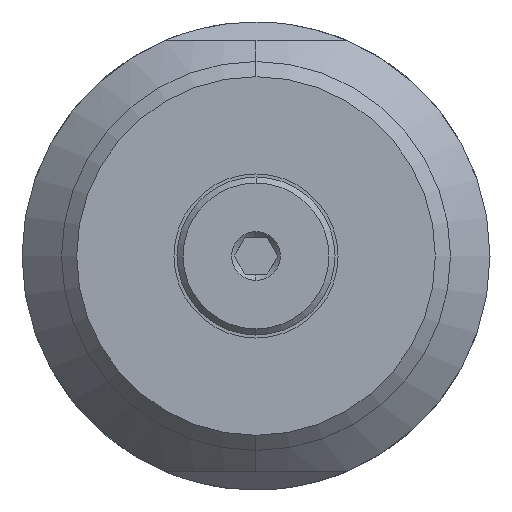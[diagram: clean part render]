
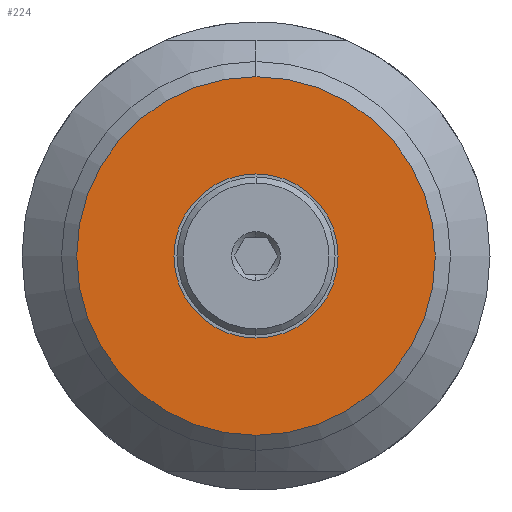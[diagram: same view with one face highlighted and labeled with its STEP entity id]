
A CAD part, left-side view. The second image highlights one B-rep face of the part: STEP entity #224.
In plain terms, the highlighted planar face has unit normal (-1, 0, 0).
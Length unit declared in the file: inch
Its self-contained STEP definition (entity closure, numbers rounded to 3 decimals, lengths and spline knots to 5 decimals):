
#27 = VERTEX_POINT ( 'NONE', #342 ) ;
#73 = VERTEX_POINT ( 'NONE', #502 ) ;
#93 = EDGE_CURVE ( 'NONE', #27, #73, #589, .T. ) ;
#117 = VERTEX_POINT ( 'NONE', #686 ) ;
#118 = EDGE_CURVE ( 'NONE', #122, #117, #688, .T. ) ;
#122 = VERTEX_POINT ( 'NONE', #751 ) ;
#172 = EDGE_CURVE ( 'NONE', #117, #122, #735, .T. ) ;
#215 = ORIENTED_EDGE ( 'NONE', *, *, #93, .F. ) ;
#218 = ORIENTED_EDGE ( 'NONE', *, *, #172, .T. ) ;
#219 = EDGE_LOOP ( 'NONE', ( #248, #215 ) ) ;
#224 = ADVANCED_FACE ( 'NONE', ( #980, #997 ), #999, .F. ) ;
#225 = EDGE_LOOP ( 'NONE', ( #218, #229 ) ) ;
#229 = ORIENTED_EDGE ( 'NONE', *, *, #118, .T. ) ;
#248 = ORIENTED_EDGE ( 'NONE', *, *, #281, .F. ) ;
#281 = EDGE_CURVE ( 'NONE', #73, #27, #836, .T. ) ;
#342 = CARTESIAN_POINT ( 'NONE',  ( -1.445, 0., -0.135 ) ) ;
#502 = CARTESIAN_POINT ( 'NONE',  ( -1.445, 0., 0.135 ) ) ;
#585 = DIRECTION ( 'NONE',  ( 0., 0., 1. ) ) ;
#586 = DIRECTION ( 'NONE',  ( -1., 0., 0. ) ) ;
#587 = CARTESIAN_POINT ( 'NONE',  ( -1.445, 0., 0. ) ) ;
#588 = AXIS2_PLACEMENT_3D ( 'NONE', #587, #586, #585 ) ;
#589 = CIRCLE ( 'NONE', #588, 0.135 ) ;
#645 = CARTESIAN_POINT ( 'NONE',  ( -1.445, 0., 0. ) ) ;
#686 = CARTESIAN_POINT ( 'NONE',  ( -1.445, 0., -0.295 ) ) ;
#687 = AXIS2_PLACEMENT_3D ( 'NONE', #645, #753, #752 ) ;
#688 = CIRCLE ( 'NONE', #687, 0.295 ) ;
#731 = DIRECTION ( 'NONE',  ( 0., 0., -1. ) ) ;
#732 = DIRECTION ( 'NONE',  ( -1., 0., 0. ) ) ;
#733 = CARTESIAN_POINT ( 'NONE',  ( -1.445, 0., 0. ) ) ;
#734 = AXIS2_PLACEMENT_3D ( 'NONE', #733, #732, #731 ) ;
#735 = CIRCLE ( 'NONE', #734, 0.295 ) ;
#751 = CARTESIAN_POINT ( 'NONE',  ( -1.445, 0., 0.295 ) ) ;
#752 = DIRECTION ( 'NONE',  ( 0., 0., -1. ) ) ;
#753 = DIRECTION ( 'NONE',  ( -1., 0., 0. ) ) ;
#832 = DIRECTION ( 'NONE',  ( 0., 0., -1. ) ) ;
#836 = CIRCLE ( 'NONE', #1017, 0.135 ) ;
#842 = CARTESIAN_POINT ( 'NONE',  ( -1.445, 0., 0. ) ) ;
#895 = CARTESIAN_POINT ( 'NONE',  ( -1.445, 0., 0. ) ) ;
#896 = AXIS2_PLACEMENT_3D ( 'NONE', #895, #998, #832 ) ;
#980 = FACE_BOUND ( 'NONE', #219, .T. ) ;
#997 = FACE_OUTER_BOUND ( 'NONE', #225, .T. ) ;
#998 = DIRECTION ( 'NONE',  ( 1., 0., 0. ) ) ;
#999 = PLANE ( 'NONE',  #896 ) ;
#1015 = DIRECTION ( 'NONE',  ( 0., 0., 1. ) ) ;
#1016 = DIRECTION ( 'NONE',  ( -1., 0., 0. ) ) ;
#1017 = AXIS2_PLACEMENT_3D ( 'NONE', #842, #1016, #1015 ) ;
